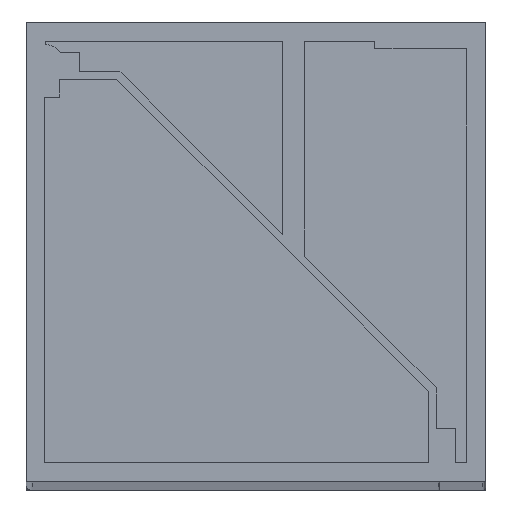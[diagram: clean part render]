
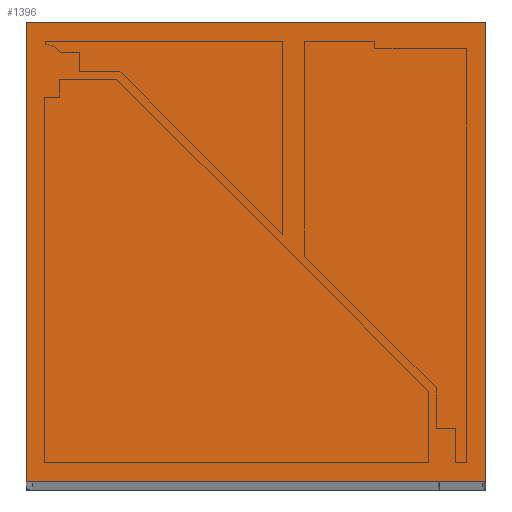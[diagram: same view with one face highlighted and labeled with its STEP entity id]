
A CAD part, top view. The second image highlights one B-rep face of the part: STEP entity #1396.
In plain terms, the highlighted planar face has unit normal (0, 0, 1).
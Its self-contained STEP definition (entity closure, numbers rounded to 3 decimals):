
#262 = VECTOR ( 'NONE', #2634, 1000. ) ;
#457 = VERTEX_POINT ( 'NONE', #8138 ) ;
#707 = VECTOR ( 'NONE', #6131, 1000. ) ;
#874 = EDGE_CURVE ( 'NONE', #5959, #4097, #1120, .T. ) ;
#922 = VERTEX_POINT ( 'NONE', #8255 ) ;
#1120 = LINE ( 'NONE', #1616, #707 ) ;
#1226 = ORIENTED_EDGE ( 'NONE', *, *, #5538, .T. ) ;
#1396 = ADVANCED_FACE ( 'NONE', ( #2318 ), #8054, .T. ) ;
#1616 = CARTESIAN_POINT ( 'NONE',  ( 30., -30., 0. ) ) ;
#1863 = ORIENTED_EDGE ( 'NONE', *, *, #3409, .T. ) ;
#1973 = DIRECTION ( 'NONE',  ( -1., 0., 0. ) ) ;
#2318 = FACE_OUTER_BOUND ( 'NONE', #4893, .T. ) ;
#2491 = ORIENTED_EDGE ( 'NONE', *, *, #874, .T. ) ;
#2611 = LINE ( 'NONE', #5174, #2934 ) ;
#2632 = EDGE_CURVE ( 'NONE', #922, #457, #5282, .T. ) ;
#2634 = DIRECTION ( 'NONE',  ( 0., -1., 0. ) ) ;
#2831 = VECTOR ( 'NONE', #3033, 1000. ) ;
#2934 = VECTOR ( 'NONE', #1973, 1000. ) ;
#3033 = DIRECTION ( 'NONE',  ( 1., 0., 0. ) ) ;
#3201 = CARTESIAN_POINT ( 'NONE',  ( 30., -30., 0. ) ) ;
#3409 = EDGE_CURVE ( 'NONE', #4097, #922, #2611, .T. ) ;
#3540 = CARTESIAN_POINT ( 'NONE',  ( 0., 0., 0. ) ) ;
#3670 = CARTESIAN_POINT ( 'NONE',  ( -30., -30., 0. ) ) ;
#4028 = AXIS2_PLACEMENT_3D ( 'NONE', #3540, #4882, #7462 ) ;
#4097 = VERTEX_POINT ( 'NONE', #4135 ) ;
#4135 = CARTESIAN_POINT ( 'NONE',  ( 30., 30., 0. ) ) ;
#4882 = DIRECTION ( 'NONE',  ( 0., 0., 1. ) ) ;
#4893 = EDGE_LOOP ( 'NONE', ( #1226, #2491, #1863, #7793 ) ) ;
#5174 = CARTESIAN_POINT ( 'NONE',  ( 30., 30., 0. ) ) ;
#5282 = LINE ( 'NONE', #7188, #262 ) ;
#5524 = LINE ( 'NONE', #3670, #2831 ) ;
#5538 = EDGE_CURVE ( 'NONE', #457, #5959, #5524, .T. ) ;
#5959 = VERTEX_POINT ( 'NONE', #3201 ) ;
#6131 = DIRECTION ( 'NONE',  ( 0., 1., 0. ) ) ;
#7188 = CARTESIAN_POINT ( 'NONE',  ( -30., 30., 0. ) ) ;
#7462 = DIRECTION ( 'NONE',  ( 1., 0., 0. ) ) ;
#7793 = ORIENTED_EDGE ( 'NONE', *, *, #2632, .T. ) ;
#8054 = PLANE ( 'NONE',  #4028 ) ;
#8138 = CARTESIAN_POINT ( 'NONE',  ( -30., -30., 0. ) ) ;
#8255 = CARTESIAN_POINT ( 'NONE',  ( -30., 30., 0. ) ) ;
